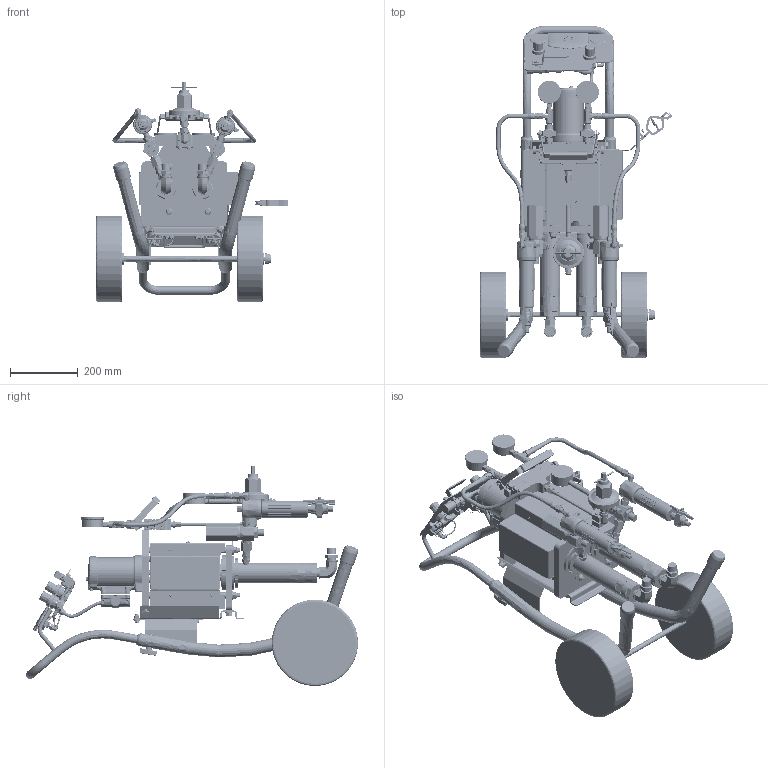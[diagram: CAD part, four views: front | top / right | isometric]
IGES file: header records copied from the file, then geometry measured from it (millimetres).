
Start section:  PTC IGES file: 24v868-en-l.igs
Global section: file name: 24v868-en-l.igs; native system: Creo Parametric by PTC Inc.; preprocessor: 2019030; author: qusrh3; organization: Unknown; date: 20191231.180738; units: inch
Bounding box: 568.49 x 981.46 x 650.47 mm (x, y, z)
Surface area: 2868604.7 mm2 (no closed solid volume)
Topology: 0 solids, 0 shells, 6110 faces, 29103 edges, 29061 vertices
Faces by surface type: revolution 3240, bspline 2851, extrusion 19
